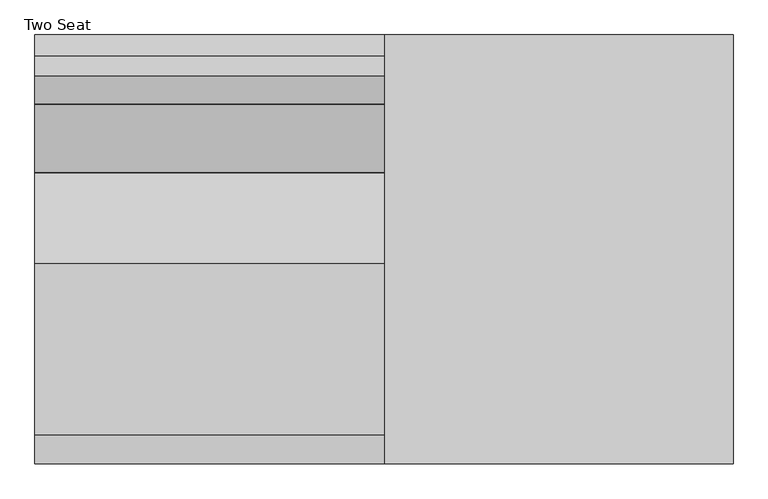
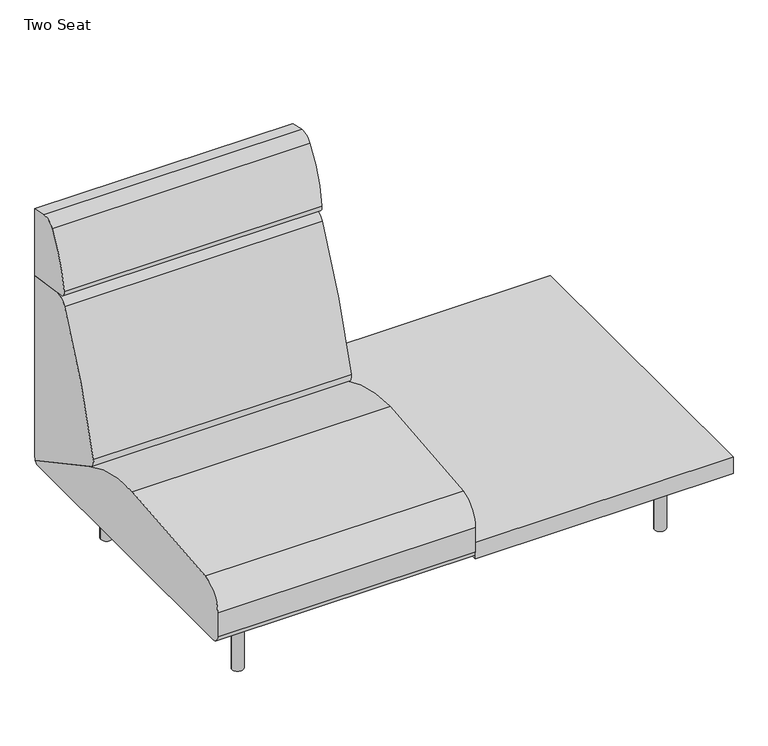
"""IFC4 building model written with IfcOpenShell, lengths in millimetres: furniture geometry, Coalesse_AM_Seating_LoungeChair_Sistema_LegBase_TwoSeat : Two Seat."""

from ifc_helpers import new_model, si_unit, point, frame, frame_2d, origin, origin_with_axes, place, context, project, spatial, polyline, circle_curve, trimmed, segment, composite_curve, outline, extrude, source, transform, mapped, element, save


def two_seat_fd37afd1(model_context):
    return source(origin(), model_context, "Body", "SweptSolid", [
        extrude(outline(composite_curve([segment(trimmed(circle_curve(frame_2d((989.1765227, 335.9943389)), 6.096), [point((995.2725227, 335.9943389))], [point((983.0805227, 335.9943389))], False, "CARTESIAN"), True, "CONTINUOUS"), segment(trimmed(circle_curve(frame_2d((989.1765227, 335.9943389)), 6.096), [point((983.0805227, 335.9943389))], [point((995.2725227, 335.9943389))], False, "CARTESIAN"), True, "CONTINUOUS")], self_intersect=False)), origin_with_axes(), (0.0, 0.0, 1.0), 4.3662291),
        extrude(outline(composite_curve([segment(trimmed(circle_curve(frame_2d((989.1765227, -327.2630889)), 6.096), [point((995.2725227, -327.2630889))], [point((983.0805227, -327.2630889))], False, "CARTESIAN"), True, "CONTINUOUS"), segment(trimmed(circle_curve(frame_2d((989.1765227, -327.2630889)), 6.096), [point((983.0805227, -327.2630889))], [point((995.2725227, -327.2630889))], False, "CARTESIAN"), True, "CONTINUOUS")], self_intersect=False)), origin_with_axes(), (0.0, 0.0, 1.0), 4.3662291),
        extrude(outline(composite_curve([segment(polyline([(157.0399209, 1001.756375), (201.7356243, 1001.756375)]), True, "CONTINUOUS"), segment(trimmed(circle_curve(frame_2d((201.7356243, 998.708375)), 3.048), [point((201.7356243, 1001.756375))], [point((204.7836243, 998.708375))], False, "CARTESIAN"), True, "CONTINUOUS"), segment(polyline([(204.7836243, 998.708375), (204.7836243, 979.366199)]), True, "CONTINUOUS"), segment(trimmed(circle_curve(frame_2d((201.7356243, 979.366199)), 3.048), [point((204.7836243, 979.366199))], [point((201.7356243, 976.318199))], False, "CARTESIAN"), True, "CONTINUOUS"), segment(polyline([(201.7356243, 976.318199), (157.1249936, 976.318199)]), True, "CONTINUOUS"), segment(trimmed(circle_curve(frame_2d((157.1249936, 979.4512718)), 3.1330728), [point((157.1249936, 976.318199))], [point((153.9919209, 979.4512718))], False, "CARTESIAN"), True, "CONTINUOUS"), segment(polyline([(153.9919209, 979.4512718), (153.9919209, 998.708375)]), True, "CONTINUOUS"), segment(trimmed(circle_curve(frame_2d((157.0399209, 998.708375)), 3.048), [point((153.9919209, 998.708375))], [point((157.0399209, 1001.756375))], False, "CARTESIAN"), True, "CONTINUOUS")], self_intersect=False)), frame((0.0, 222.3519802, 0.0), z_axis=(0.0, 1.0, 0.0), x_axis=(0.0, 0.0, 1.0)), (0.0, 0.0, 1.0), 92.6273161),
        extrude(outline(composite_curve([segment(polyline([(157.0399209, 1001.756375), (201.7356243, 1001.756375)]), True, "CONTINUOUS"), segment(trimmed(circle_curve(frame_2d((201.7356243, 998.708375)), 3.048), [point((201.7356243, 1001.756375))], [point((204.7836243, 998.708375))], False, "CARTESIAN"), True, "CONTINUOUS"), segment(polyline([(204.7836243, 998.708375), (204.7836243, 979.366199)]), True, "CONTINUOUS"), segment(trimmed(circle_curve(frame_2d((201.7356243, 979.366199)), 3.048), [point((204.7836243, 979.366199))], [point((201.7356243, 976.318199))], False, "CARTESIAN"), True, "CONTINUOUS"), segment(polyline([(201.7356243, 976.318199), (157.1249936, 976.318199)]), True, "CONTINUOUS"), segment(trimmed(circle_curve(frame_2d((157.1249936, 979.4512718)), 3.1330728), [point((157.1249936, 976.318199))], [point((153.9919209, 979.4512718))], False, "CARTESIAN"), True, "CONTINUOUS"), segment(polyline([(153.9919209, 979.4512718), (153.9919209, 998.708375)]), True, "CONTINUOUS"), segment(trimmed(circle_curve(frame_2d((157.0399209, 998.708375)), 3.048), [point((153.9919209, 998.708375))], [point((157.0399209, 1001.756375))], False, "CARTESIAN"), True, "CONTINUOUS")], self_intersect=False)), frame((0.0, -314.9792963, 0.0), z_axis=(0.0, 1.0, 0.0), x_axis=(0.0, 0.0, 1.0)), (0.0, 0.0, 1.0), 92.6273161),
        extrude(outline(composite_curve([segment(trimmed(circle_curve(frame_2d((176.3356606, 966.5259944)), 3.048), [point((179.3836606, 966.5259944))], [point((176.3356606, 963.4779944))], False, "CARTESIAN"), True, "CONTINUOUS"), segment(polyline([(176.3356606, 963.4779944), (157.0399209, 963.4779944)]), True, "CONTINUOUS"), segment(trimmed(circle_curve(frame_2d((157.0399209, 966.5259944)), 3.048), [point((157.0399209, 963.4779944))], [point((153.9919209, 966.5259944))], False, "CARTESIAN"), True, "CONTINUOUS"), segment(polyline([(153.9919209, 966.5259944), (153.9919209, 1011.2135501)]), True, "CONTINUOUS"), segment(trimmed(circle_curve(frame_2d((157.056462, 1011.2135501)), 3.0645412), [point((153.9919209, 1011.2135501))], [point((157.056462, 1014.2780913))], False, "CARTESIAN"), True, "CONTINUOUS"), segment(polyline([(157.056462, 1014.2780913), (176.3356606, 1014.2780913)]), True, "CONTINUOUS"), segment(trimmed(circle_curve(frame_2d((176.3356606, 1011.2300913)), 3.048), [point((176.3356606, 1014.2780913))], [point((179.3836606, 1011.2300913))], False, "CARTESIAN"), True, "CONTINUOUS"), segment(polyline([(179.3836606, 1011.2300913), (179.3836606, 966.5259944)]), True, "CONTINUOUS")], self_intersect=False)), frame((0.0, -222.3519802, 0.0), z_axis=(0.0, 1.0, 0.0), x_axis=(0.0, 0.0, 1.0)), (0.0, 0.0, 1.0), 444.7039604),
        extrude(outline(composite_curve([segment(trimmed(circle_curve(frame_2d((989.1765227, 332.3095741)), 16.51), [point((1005.6865227, 332.3095741))], [point((972.6665227, 332.3095741))], False, "CARTESIAN"), True, "CONTINUOUS"), segment(trimmed(circle_curve(frame_2d((989.1765227, 332.3095741)), 16.51), [point((972.6665227, 332.3095741))], [point((1005.6865227, 332.3095741))], False, "CARTESIAN"), True, "CONTINUOUS")], self_intersect=False)), frame((0.0, 0.0, 4.3662291), z_axis=(0.0, 0.0, 1.0), x_axis=(1.0, 0.0, 0.0)), (0.0, 0.0, 1.0), 200.1037709),
        extrude(outline(composite_curve([segment(trimmed(circle_curve(frame_2d((988.7796477, -327.5470741)), 16.51), [point((1005.2896477, -327.5470741))], [point((972.2696477, -327.5470741))], False, "CARTESIAN"), True, "CONTINUOUS"), segment(trimmed(circle_curve(frame_2d((988.7796477, -327.5470741)), 16.51), [point((972.2696477, -327.5470741))], [point((1005.2896477, -327.5470741))], False, "CARTESIAN"), True, "CONTINUOUS")], self_intersect=False)), frame((0.0, 0.0, 4.3662291), z_axis=(0.0, 0.0, 1.0), x_axis=(1.0, 0.0, 0.0)), (0.0, 0.0, 1.0), 200.1037709),
        extrude(outline(composite_curve([segment(polyline([(459.4795619, 985.4592709), (459.4795619, 780.845009), (327.9700683, 799.327463)]), True, "CONTINUOUS"), segment(trimmed(circle_curve(frame_2d((330.6213159, 818.1920697)), 19.05), [point((327.9700683, 799.327463))], [point((311.7521971, 820.8110119))], False, "CARTESIAN"), True, "CONTINUOUS"), segment(trimmed(circle_curve(frame_2d((679.5815991, 769.7580741)), 371.3554516), [point((311.7521971, 820.8110119))], [point((372.1246101, 978.0249014))], False, "CARTESIAN"), True, "CONTINUOUS"), segment(trimmed(circle_curve(frame_2d((405.8944569, 955.1497055)), 40.7881985), [point((372.1246101, 978.0249014))], [point((414.3748002, 995.046584))], False, "CARTESIAN"), True, "CONTINUOUS"), segment(polyline([(414.3748002, 995.046584), (459.4795619, 985.4592709)]), True, "CONTINUOUS")], self_intersect=False)), frame((-374.8034773, 0.0, 0.0), z_axis=(1.0, 0.0, 0.0), x_axis=(0.0, 1.0, 0.0)), (0.0, 0.0, 1.0), 749.3),
        extrude(outline(composite_curve([segment(polyline([(459.4795619, 780.845009), (459.4795619, 228.1929806)]), True, "CONTINUOUS"), segment(trimmed(circle_curve(frame_2d((191.495971, 228.1929806)), 267.983591), [point((459.4795619, 228.1929806))], [point((458.9860775, 211.937276))], False, "CARTESIAN"), True, "CONTINUOUS"), segment(polyline([(458.9860775, 211.937276), (177.4990556, 364.1028799)]), True, "CONTINUOUS"), segment(trimmed(circle_curve(frame_2d((189.5778307, 386.4470781)), 25.4), [point((177.4990556, 364.1028799))], [point((164.9600055, 392.7018911))], False, "CARTESIAN"), True, "CONTINUOUS"), segment(trimmed(circle_curve(frame_2d((1918.112812, -52.7331923)), 1808.8552115), [point((164.9600055, 392.7018911))], [point((310.2880264, 776.0349508))], False, "CARTESIAN"), True, "CONTINUOUS"), segment(trimmed(circle_curve(frame_2d((344.1537133, 758.5785695)), 38.1), [point((310.2880264, 776.0349508))], [point((349.4562085, 796.3077829))], False, "CARTESIAN"), True, "CONTINUOUS"), segment(polyline([(349.4562085, 796.3077829), (459.4795619, 780.845009)]), True, "CONTINUOUS")], self_intersect=False)), frame((-374.8034773, 0.0, 0.0), z_axis=(1.0, 0.0, 0.0), x_axis=(0.0, 1.0, 0.0)), (0.0, 0.0, 1.0), 749.3),
        extrude(outline(composite_curve([segment(trimmed(circle_curve(frame_2d((-438.9184381, 226.822)), 22.352), [point((-438.9184381, 204.47))], [point((-461.2704381, 226.822))], False, "CARTESIAN"), True, "CONTINUOUS"), segment(polyline([(-461.2704381, 226.822), (-461.2704381, 301.4421993)]), True, "CONTINUOUS"), segment(trimmed(circle_curve(frame_2d((-385.0704381, 301.4421993)), 76.2), [point((-461.2704381, 301.4421993))], [point((-398.9277015, 376.3716077))], False, "CARTESIAN"), True, "CONTINUOUS"), segment(trimmed(circle_curve(frame_2d((2.2103559, -1792.6740646)), 2205.8265729), [point((-398.9277015, 376.3716077))], [point((-31.1968175, 412.8995185))], False, "CARTESIAN"), True, "CONTINUOUS"), segment(trimmed(circle_curve(frame_2d((-24.5128424, -28.3829182)), 441.333054), [point((-31.1968175, 412.8995185))], [point((184.5757008, 360.2774035))], False, "CARTESIAN"), True, "CONTINUOUS"), segment(polyline([(184.5757008, 360.2774035), (458.9860775, 211.937276)]), True, "CONTINUOUS"), segment(trimmed(circle_curve(frame_2d((442.3266309, 226.7871991)), 22.3171991), [point((458.9860775, 211.937276))], [point((442.3266309, 204.47))], False, "CARTESIAN"), True, "CONTINUOUS"), segment(polyline([(442.3266309, 204.47), (-438.9184381, 204.47)]), True, "CONTINUOUS")], self_intersect=False)), frame((-374.8034773, 0.0, 0.0), z_axis=(1.0, 0.0, 0.0), x_axis=(0.0, 1.0, 0.0)), (0.0, 0.0, 1.0), 749.3),
        extrude(outline(polyline([(1123.7965227, 459.4795619), (1123.7965227, -461.2704381), (374.4965227, -461.2704381), (374.4965227, 459.4795619), (1123.7965227, 459.4795619)])), frame((0.0, 0.0, 204.47), z_axis=(0.0, 0.0, 1.0), x_axis=(1.0, 0.0, 0.0)), (0.0, 0.0, 1.0), 51.0294654),
        extrude(outline(composite_curve([segment(trimmed(circle_curve(frame_2d((-240.1834773, 335.9943389)), 6.096), [point((-246.2794773, 335.9943389))], [point((-234.0874773, 335.9943389))], False, "CARTESIAN"), True, "CONTINUOUS"), segment(trimmed(circle_curve(frame_2d((-240.1834773, 335.9943389)), 6.096), [point((-234.0874773, 335.9943389))], [point((-246.2794773, 335.9943389))], False, "CARTESIAN"), True, "CONTINUOUS")], self_intersect=False)), origin_with_axes(), (0.0, 0.0, 1.0), 4.3662291),
        extrude(outline(composite_curve([segment(trimmed(circle_curve(frame_2d((-240.1834773, -327.2630889)), 6.096), [point((-246.2794773, -327.2630889))], [point((-234.0874773, -327.2630889))], False, "CARTESIAN"), True, "CONTINUOUS"), segment(trimmed(circle_curve(frame_2d((-240.1834773, -327.2630889)), 6.096), [point((-234.0874773, -327.2630889))], [point((-246.2794773, -327.2630889))], False, "CARTESIAN"), True, "CONTINUOUS")], self_intersect=False)), origin_with_axes(), (0.0, 0.0, 1.0), 4.3662291),
        extrude(outline(composite_curve([segment(trimmed(circle_curve(frame_2d((157.0399209, -249.7153296)), 3.048), [point((157.0399209, -252.7633296))], [point((153.9919209, -249.7153296))], False, "CARTESIAN"), True, "CONTINUOUS"), segment(polyline([(153.9919209, -249.7153296), (153.9919209, -230.4582264)]), True, "CONTINUOUS"), segment(trimmed(circle_curve(frame_2d((157.1249936, -230.4582264)), 3.1330728), [point((153.9919209, -230.4582264))], [point((157.1249936, -227.3251537))], False, "CARTESIAN"), True, "CONTINUOUS"), segment(polyline([(157.1249936, -227.3251537), (201.7356243, -227.3251537)]), True, "CONTINUOUS"), segment(trimmed(circle_curve(frame_2d((201.7356243, -230.3731537)), 3.048), [point((201.7356243, -227.3251537))], [point((204.7836243, -230.3731537))], False, "CARTESIAN"), True, "CONTINUOUS"), segment(polyline([(204.7836243, -230.3731537), (204.7836243, -249.7153296)]), True, "CONTINUOUS"), segment(trimmed(circle_curve(frame_2d((201.7356243, -249.7153296)), 3.048), [point((204.7836243, -249.7153296))], [point((201.7356243, -252.7633296))], False, "CARTESIAN"), True, "CONTINUOUS"), segment(polyline([(201.7356243, -252.7633296), (157.0399209, -252.7633296)]), True, "CONTINUOUS")], self_intersect=False)), frame((0.0, 222.3519802, 0.0), z_axis=(0.0, 1.0, 0.0), x_axis=(0.0, 0.0, 1.0)), (0.0, 0.0, 1.0), 92.6273161),
        extrude(outline(composite_curve([segment(trimmed(circle_curve(frame_2d((157.0399209, -249.7153296)), 3.048), [point((157.0399209, -252.7633296))], [point((153.9919209, -249.7153296))], False, "CARTESIAN"), True, "CONTINUOUS"), segment(polyline([(153.9919209, -249.7153296), (153.9919209, -230.4582264)]), True, "CONTINUOUS"), segment(trimmed(circle_curve(frame_2d((157.1249936, -230.4582264)), 3.1330728), [point((153.9919209, -230.4582264))], [point((157.1249936, -227.3251537))], False, "CARTESIAN"), True, "CONTINUOUS"), segment(polyline([(157.1249936, -227.3251537), (201.7356243, -227.3251537)]), True, "CONTINUOUS"), segment(trimmed(circle_curve(frame_2d((201.7356243, -230.3731537)), 3.048), [point((201.7356243, -227.3251537))], [point((204.7836243, -230.3731537))], False, "CARTESIAN"), True, "CONTINUOUS"), segment(polyline([(204.7836243, -230.3731537), (204.7836243, -249.7153296)]), True, "CONTINUOUS"), segment(trimmed(circle_curve(frame_2d((201.7356243, -249.7153296)), 3.048), [point((204.7836243, -249.7153296))], [point((201.7356243, -252.7633296))], False, "CARTESIAN"), True, "CONTINUOUS"), segment(polyline([(201.7356243, -252.7633296), (157.0399209, -252.7633296)]), True, "CONTINUOUS")], self_intersect=False)), frame((0.0, -314.9792963, 0.0), z_axis=(0.0, 1.0, 0.0), x_axis=(0.0, 0.0, 1.0)), (0.0, 0.0, 1.0), 92.6273161),
        extrude(outline(composite_curve([segment(polyline([(179.3836606, -217.532949), (179.3836606, -262.2370459)]), True, "CONTINUOUS"), segment(trimmed(circle_curve(frame_2d((176.3356606, -262.2370459)), 3.048), [point((179.3836606, -262.2370459))], [point((176.3356606, -265.2850459))], False, "CARTESIAN"), True, "CONTINUOUS"), segment(polyline([(176.3356606, -265.2850459), (157.056462, -265.2850459)]), True, "CONTINUOUS"), segment(trimmed(circle_curve(frame_2d((157.056462, -262.2205047)), 3.0645412), [point((157.056462, -265.2850459))], [point((153.9919209, -262.2205047))], False, "CARTESIAN"), True, "CONTINUOUS"), segment(polyline([(153.9919209, -262.2205047), (153.9919209, -217.532949)]), True, "CONTINUOUS"), segment(trimmed(circle_curve(frame_2d((157.0399209, -217.532949)), 3.048), [point((153.9919209, -217.532949))], [point((157.0399209, -214.484949))], False, "CARTESIAN"), True, "CONTINUOUS"), segment(polyline([(157.0399209, -214.484949), (176.3356606, -214.484949)]), True, "CONTINUOUS"), segment(trimmed(circle_curve(frame_2d((176.3356606, -217.532949)), 3.048), [point((176.3356606, -214.484949))], [point((179.3836606, -217.532949))], False, "CARTESIAN"), True, "CONTINUOUS")], self_intersect=False)), frame((0.0, -222.3519802, 0.0), z_axis=(0.0, 1.0, 0.0), x_axis=(0.0, 0.0, 1.0)), (0.0, 0.0, 1.0), 444.7039604),
        extrude(outline(composite_curve([segment(trimmed(circle_curve(frame_2d((-240.1834773, 332.3095741)), 16.51), [point((-256.6934773, 332.3095741))], [point((-223.6734773, 332.3095741))], False, "CARTESIAN"), True, "CONTINUOUS"), segment(trimmed(circle_curve(frame_2d((-240.1834773, 332.3095741)), 16.51), [point((-223.6734773, 332.3095741))], [point((-256.6934773, 332.3095741))], False, "CARTESIAN"), True, "CONTINUOUS")], self_intersect=False)), frame((0.0, 0.0, 4.3662291), z_axis=(0.0, 0.0, 1.0), x_axis=(1.0, 0.0, 0.0)), (0.0, 0.0, 1.0), 200.1037709),
        extrude(outline(composite_curve([segment(trimmed(circle_curve(frame_2d((-239.7866023, -327.5470741)), 16.51), [point((-256.2966023, -327.5470741))], [point((-223.2766023, -327.5470741))], False, "CARTESIAN"), True, "CONTINUOUS"), segment(trimmed(circle_curve(frame_2d((-239.7866023, -327.5470741)), 16.51), [point((-223.2766023, -327.5470741))], [point((-256.2966023, -327.5470741))], False, "CARTESIAN"), True, "CONTINUOUS")], self_intersect=False)), frame((0.0, 0.0, 4.3662291), z_axis=(0.0, 0.0, 1.0), x_axis=(1.0, 0.0, 0.0)), (0.0, 0.0, 1.0), 200.1037709),
    ])


if __name__ == "__main__":
    model = new_model("IFC4")
    model_context = context("Model", 3, world=origin())
    ifc_project = project(units=[si_unit("LENGTHUNIT", "METRE", prefix="MILLI")], contexts=[model_context])
    site = spatial("IfcSite", under=ifc_project)
    building = spatial("IfcBuilding", under=site)
    placement = place(None, origin())
    two_seat_shape = two_seat_fd37afd1(model_context)
    element("IfcFurniture", 1, ObjectType="Coalesse_AM_Seating_LoungeChair_Sistema_LegBase_TwoSeat : Two Seat", at=placement, inside=building, context=model_context, shape_type="MappedRepresentation", body=[
        mapped(two_seat_shape, transform((0.0, 0.0, 0.0), x_axis=(1.0, 0.0, 0.0), y_axis=(0.0, 1.0, 0.0), z_axis=(0.0, 0.0, 1.0))),
    ])
    save(model, "model.ifc")
